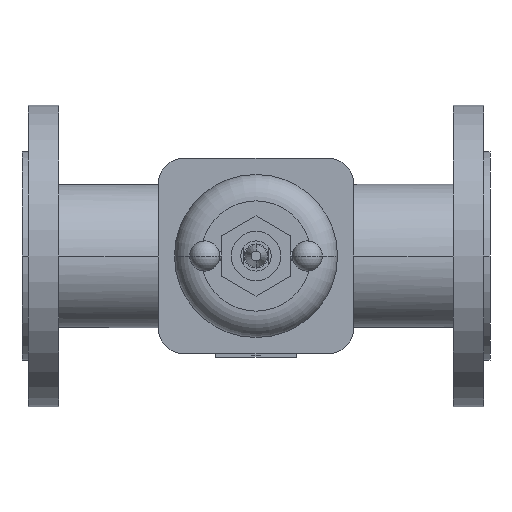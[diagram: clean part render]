
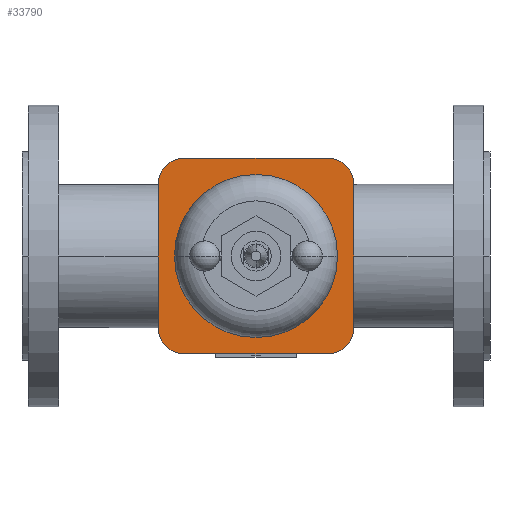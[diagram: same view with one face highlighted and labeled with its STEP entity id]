
A CAD part, front view. The second image highlights one B-rep face of the part: STEP entity #33790.
In plain terms, the highlighted planar face has unit normal (0, -1, 0).
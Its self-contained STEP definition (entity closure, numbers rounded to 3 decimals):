
#10780=CARTESIAN_POINT('',(209.,-124.62,0.));
#10790=VERTEX_POINT('',#10780);
#10820=CARTESIAN_POINT('',(155.,-124.62,0.));
#10830=DIRECTION('',(0.,-1.,0.));
#10840=DIRECTION('',(-1.,0.,0.));
#10850=AXIS2_PLACEMENT_3D('',#10820,#10830,#10840);
#10860=CIRCLE('',#10850,54.);
#10870=CARTESIAN_POINT('',(101.,-124.62,0.));
#10880=VERTEX_POINT('',#10870);
#10890=EDGE_CURVE('',#10880,#10790,#10860,.T.);
#32990=CARTESIAN_POINT('',(85.25,-124.62,0.));
#33000=DIRECTION('',(0.,-1.,0.));
#33010=DIRECTION('',(-1.,0.,0.));
#33020=AXIS2_PLACEMENT_3D('',#32990,#33000,#33010);
#33030=PLANE('',#33020);
#33040=CARTESIAN_POINT('',(107.27,-124.62,47.73));
#33050=DIRECTION('',(0.,-1.,0.));
#33060=DIRECTION('',(-1.,0.,0.));
#33070=AXIS2_PLACEMENT_3D('',#33040,#33050,#33060);
#33080=CIRCLE('',#33070,17.);
#33090=CARTESIAN_POINT('',(107.27,-124.62,64.73));
#33100=VERTEX_POINT('',#33090);
#33110=CARTESIAN_POINT('',(90.27,-124.62,47.73));
#33120=VERTEX_POINT('',#33110);
#33130=EDGE_CURVE('',#33100,#33120,#33080,.T.);
#33140=ORIENTED_EDGE('',*,*,#33130,.T.);
#33150=CARTESIAN_POINT('',(96.26,-124.62,64.73));
#33160=DIRECTION('',(-1.,0.,0.));
#33170=VECTOR('',#33160,1.);
#33180=LINE('',#33150,#33170);
#33190=CARTESIAN_POINT('',(202.73,-124.62,64.73));
#33200=VERTEX_POINT('',#33190);
#33210=EDGE_CURVE('',#33200,#33100,#33180,.T.);
#33220=ORIENTED_EDGE('',*,*,#33210,.T.);
#33230=CARTESIAN_POINT('',(202.73,-124.62,47.73));
#33240=DIRECTION('',(0.,-1.,0.));
#33250=DIRECTION('',(0.,0.,1.));
#33260=AXIS2_PLACEMENT_3D('',#33230,#33240,#33250);
#33270=CIRCLE('',#33260,17.);
#33280=CARTESIAN_POINT('',(219.73,-124.62,47.73));
#33290=VERTEX_POINT('',#33280);
#33300=EDGE_CURVE('',#33290,#33200,#33270,.T.);
#33310=ORIENTED_EDGE('',*,*,#33300,.T.);
#33320=CARTESIAN_POINT('',(219.73,-124.62,23.865));
#33330=DIRECTION('',(0.,0.,1.));
#33340=VECTOR('',#33330,1.);
#33350=LINE('',#33320,#33340);
#33360=CARTESIAN_POINT('',(219.73,-124.62,-47.73));
#33370=VERTEX_POINT('',#33360);
#33380=EDGE_CURVE('',#33370,#33290,#33350,.T.);
#33390=ORIENTED_EDGE('',*,*,#33380,.T.);
#33400=CARTESIAN_POINT('',(202.73,-124.62,-47.73));
#33410=DIRECTION('',(0.,-1.,0.));
#33420=DIRECTION('',(1.,0.,0.));
#33430=AXIS2_PLACEMENT_3D('',#33400,#33410,#33420);
#33440=CIRCLE('',#33430,17.);
#33450=CARTESIAN_POINT('',(202.73,-124.62,-64.73));
#33460=VERTEX_POINT('',#33450);
#33470=EDGE_CURVE('',#33460,#33370,#33440,.T.);
#33480=ORIENTED_EDGE('',*,*,#33470,.T.);
#33490=CARTESIAN_POINT('',(143.99,-124.62,-64.73));
#33500=DIRECTION('',(1.,0.,0.));
#33510=VECTOR('',#33500,1.);
#33520=LINE('',#33490,#33510);
#33530=CARTESIAN_POINT('',(107.27,-124.62,-64.73));
#33540=VERTEX_POINT('',#33530);
#33550=EDGE_CURVE('',#33540,#33460,#33520,.T.);
#33560=ORIENTED_EDGE('',*,*,#33550,.T.);
#33570=CARTESIAN_POINT('',(107.27,-124.62,-47.73));
#33580=DIRECTION('',(0.,-1.,0.));
#33590=DIRECTION('',(0.,0.,-1.));
#33600=AXIS2_PLACEMENT_3D('',#33570,#33580,#33590);
#33610=CIRCLE('',#33600,17.);
#33620=CARTESIAN_POINT('',(90.27,-124.62,-47.73));
#33630=VERTEX_POINT('',#33620);
#33640=EDGE_CURVE('',#33630,#33540,#33610,.T.);
#33650=ORIENTED_EDGE('',*,*,#33640,.T.);
#33660=CARTESIAN_POINT('',(90.27,-124.62,-23.865));
#33670=DIRECTION('',(0.,0.,-1.));
#33680=VECTOR('',#33670,1.);
#33690=LINE('',#33660,#33680);
#33700=EDGE_CURVE('',#33120,#33630,#33690,.T.);
#33710=ORIENTED_EDGE('',*,*,#33700,.T.);
#33720=EDGE_LOOP('',(#33710,#33650,#33560,#33480,#33390,#33310,#33220,
#33140));
#33730=FACE_OUTER_BOUND('',#33720,.T.);
#33740=ORIENTED_EDGE('',*,*,#10890,.F.);
#33750=EDGE_CURVE('',#10790,#10880,#10860,.T.);
#33760=ORIENTED_EDGE('',*,*,#33750,.F.);
#33770=EDGE_LOOP('',(#33760,#33740));
#33780=FACE_BOUND('',#33770,.T.);
#33790=ADVANCED_FACE('',(#33730,#33780),#33030,.T.);
